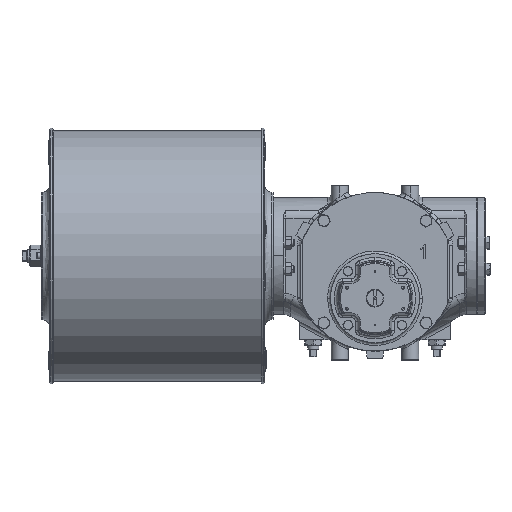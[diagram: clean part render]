
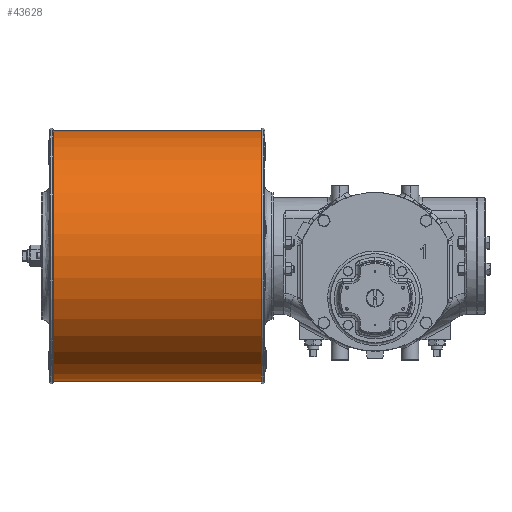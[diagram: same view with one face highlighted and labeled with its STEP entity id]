
A CAD part, top view. The second image highlights one B-rep face of the part: STEP entity #43628.
In plain terms, the highlighted cylindrical face has radius 177.8 mm (diameter 355.6 mm), a partial arc.
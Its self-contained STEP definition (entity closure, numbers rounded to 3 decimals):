
#534 = CARTESIAN_POINT ( 'NONE',  ( -456.5, -155.3, 57.5 ) ) ;
#1495 = CARTESIAN_POINT ( 'NONE',  ( -161.5, -155.3, 57.5 ) ) ;
#3299 = AXIS2_PLACEMENT_3D ( 'NONE', #63111, #27688, #22666 ) ;
#4055 = CARTESIAN_POINT ( 'NONE',  ( -456.5, 22.5, 57.5 ) ) ;
#4285 = VERTEX_POINT ( 'NONE', #1495 ) ;
#10830 = EDGE_CURVE ( 'NONE', #4285, #56479, #23348, .T. ) ;
#11111 = ORIENTED_EDGE ( 'NONE', *, *, #68323, .T. ) ;
#12358 = ORIENTED_EDGE ( 'NONE', *, *, #30940, .T. ) ;
#15227 = DIRECTION ( 'NONE',  ( 0., 1., 0. ) ) ;
#16633 = VERTEX_POINT ( 'NONE', #534 ) ;
#18149 = DIRECTION ( 'NONE',  ( 1., 0., 0. ) ) ;
#21410 = AXIS2_PLACEMENT_3D ( 'NONE', #4055, #33299, #15227 ) ;
#22666 = DIRECTION ( 'NONE',  ( 0., 1., 0. ) ) ;
#23285 = EDGE_CURVE ( 'NONE', #28391, #56479, #59366, .T. ) ;
#23348 = CIRCLE ( 'NONE', #27060, 177.8 ) ;
#27060 = AXIS2_PLACEMENT_3D ( 'NONE', #33637, #32893, #45952 ) ;
#27355 = CARTESIAN_POINT ( 'NONE',  ( -161.5, 200.3, 57.5 ) ) ;
#27688 = DIRECTION ( 'NONE',  ( 1., 0., 0. ) ) ;
#28391 = VERTEX_POINT ( 'NONE', #34489 ) ;
#30940 = EDGE_CURVE ( 'NONE', #16633, #4285, #46486, .T. ) ;
#32893 = DIRECTION ( 'NONE',  ( -1., 0., 0. ) ) ;
#32929 = CYLINDRICAL_SURFACE ( 'NONE', #21410, 177.8 ) ;
#33299 = DIRECTION ( 'NONE',  ( 1., 0., 0. ) ) ;
#33637 = CARTESIAN_POINT ( 'NONE',  ( -161.5, 22.5, 57.5 ) ) ;
#34489 = CARTESIAN_POINT ( 'NONE',  ( -456.5, 200.3, 57.5 ) ) ;
#35383 = ORIENTED_EDGE ( 'NONE', *, *, #23285, .F. ) ;
#41071 = DIRECTION ( 'NONE',  ( 1., 0., 0. ) ) ;
#41451 = CARTESIAN_POINT ( 'NONE',  ( -456.5, -155.3, 57.5 ) ) ;
#42539 = EDGE_LOOP ( 'NONE', ( #11111, #12358, #69604, #35383 ) ) ;
#43628 = ADVANCED_FACE ( 'NONE', ( #67974 ), #32929, .T. ) ;
#45952 = DIRECTION ( 'NONE',  ( 0., 1., 0. ) ) ;
#46095 = VECTOR ( 'NONE', #41071, 1000. ) ;
#46486 = LINE ( 'NONE', #41451, #46095 ) ;
#47811 = CARTESIAN_POINT ( 'NONE',  ( -456.5, 200.3, 57.5 ) ) ;
#56479 = VERTEX_POINT ( 'NONE', #27355 ) ;
#58591 = CIRCLE ( 'NONE', #3299, 177.8 ) ;
#59366 = LINE ( 'NONE', #47811, #63567 ) ;
#63111 = CARTESIAN_POINT ( 'NONE',  ( -456.5, 22.5, 57.5 ) ) ;
#63567 = VECTOR ( 'NONE', #18149, 1000. ) ;
#67974 = FACE_OUTER_BOUND ( 'NONE', #42539, .T. ) ;
#68323 = EDGE_CURVE ( 'NONE', #28391, #16633, #58591, .T. ) ;
#69604 = ORIENTED_EDGE ( 'NONE', *, *, #10830, .T. ) ;
